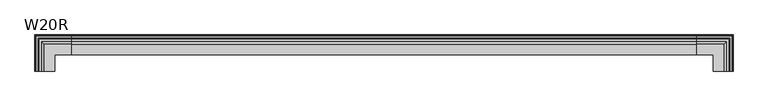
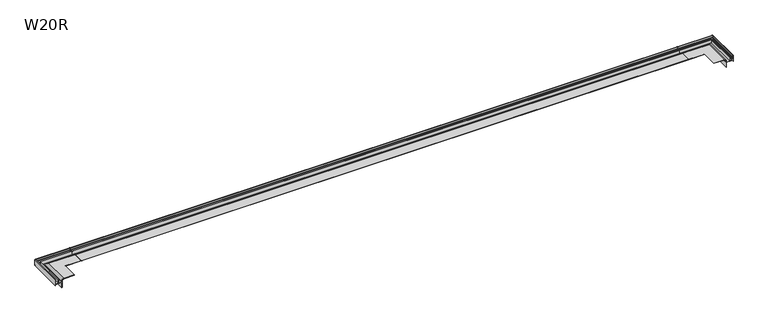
"""IFC4 building model written with IfcOpenShell, lengths in millimetres: proxy geometry, W20R Profil okapowy prosty : W20R."""

from ifc_helpers import new_model, si_unit, point, frame, frame_2d, origin, place, context, project, spatial, polyline, circle_curve, ellipse_curve, trimmed, segment, composite_curve, outline, extrude, source, transform, mapped, element, save
from ifc_brep_helpers import plane_surface, cylinder_surface, revolved_surface, advanced_brep


def w20r_ccec4204(model_context):
    return source(origin(), model_context, "Body", "SolidModel", [
        advanced_brep(
        [(4800.0, 1.3, -2.7115431), (4800.0, 1.3, -7.4), (4800.0, 0.0, -7.4), (4800.0, 0.0, -2.4993104), (4800.0, -1.7, -2.4), (4800.0, -80.0, -2.4), (4800.0, -80.0, 0.0), (4800.0, -1.7, 0.0), (4800.0, 15.3, -17.0), (4800.0, 15.3, -25.0), (4800.0, 38.8, -25.0), (4800.0, 38.8, 1.4), (4800.0, 40.3, 1.4), (4800.0, 40.3, -25.0), (4800.0, 63.8, -25.0), (4800.0, 63.8, -21.0), (4800.0, 60.6, -21.0), (4800.0, 60.6, -19.5), (4800.0, 63.8, -19.5), (4800.0, 63.8, -3.07), (4800.0, 60.6, -3.07), (4800.0, 60.6, -1.57), (4800.0, 63.8, -1.57), (4800.0, 63.8, 11.7925824), (4800.0, 63.0, 12.5925824), (4800.0, 63.0, 14.0925824), (4800.0, 65.3, 11.7925824), (4800.0, 65.3, -34.6035534), (4800.0, 63.8, -33.1035534), (4800.0, 63.8, -27.4), (4800.0, 14.6, -27.4), (4800.0, 14.6, -67.5585923), (4800.0, 12.9, -66.5086509), (4800.0, 12.9, -17.0), (5001.3, -200.0, -2.7115431), (5012.9, -200.0, -17.0), (5012.9, -200.0, -66.5086509), (5014.6, -200.0, -67.5585923), (5014.6, -200.0, -27.4), (5063.8, -200.0, -27.4), (5063.8, -200.0, -33.1035534), (5065.3, -200.0, -34.6035534), (5065.3, -200.0, 11.7925824), (5063.0, -200.0, 14.0925824), (5063.0, -200.0, 12.5925824), (5063.8, -200.0, 11.7925824), (5063.8, -200.0, -1.57), (5060.6, -200.0, -1.57), (5060.6, -200.0, -3.07), (5063.8, -200.0, -3.07), (5063.8, -200.0, -19.5), (5060.6, -200.0, -19.5), (5060.6, -200.0, -21.0), (5063.8, -200.0, -21.0), (5063.8, -200.0, -25.0), (5040.3, -200.0, -25.0), (5040.3, -200.0, 1.4), (5038.8, -200.0, 1.4), (5038.8, -200.0, -25.0), (5015.3, -200.0, -25.0), (5015.3, -200.0, -17.0), (4998.3, -200.0, 0.0), (4920.0, -200.0, 0.0), (4920.0, -200.0, -2.4), (4998.3, -200.0, -2.4), (5000.0, -200.0, -2.4993104), (5000.0, -200.0, -7.4), (5001.3, -200.0, -7.4), (5001.3, 1.3, -2.7115431), (5001.3, 1.3, -7.4), (5000.0, 0.0, -7.4), (5000.0, 0.0, -2.4993104), (4998.3, -1.7, -2.4), (4920.0, -80.0, -2.4), (4920.0, -80.0, 0.0), (4998.3, -1.7, 0.0), (5015.3, 15.3, -17.0), (5015.3, 15.3, -25.0), (5038.8, 38.8, -25.0), (5038.8, 38.8, 1.4), (5040.3, 40.3, 1.4), (5040.3, 40.3, -25.0), (5063.8, 63.8, -25.0), (5063.8, 63.8, -21.0), (5060.6, 60.6, -21.0), (5060.6, 60.6, -19.5), (5063.8, 63.8, -19.5), (5063.8, 63.8, -3.07), (5060.6, 60.6, -3.07), (5060.6, 60.6, -1.57), (5063.8, 63.8, -1.57), (5063.8, 63.8, 11.7925824), (5063.0, 63.0, 12.5925824), (5063.0, 63.0, 14.0925824), (5065.3, 65.3, 11.7925824), (5065.3, 65.3, -34.6035534), (5063.8, 63.8, -33.1035534), (5063.8, 63.8, -27.4), (5014.6, 14.6, -27.4), (5014.6, 14.6, -67.5585923), (5012.9, 12.9, -66.5086509), (5012.9, 12.9, -17.0)],
        [
            (0, 1),
            (1, 2),
            (2, 3),
            (3, 4, circle_curve(frame((4800.0, -1.7, -17.0), z_axis=(1.0, 0.0, 0.0), x_axis=(0.0, 0.9998476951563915, 0.017452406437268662)), 14.6)),
            (4, 5),
            (5, 6),
            (6, 7),
            (7, 8, circle_curve(frame((4800.0, -1.7, -17.0), z_axis=(-1.0, 0.0, 0.0), x_axis=(0.0, 0.9998476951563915, 0.017452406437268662)), 17.0)),
            (8, 9),
            (9, 10),
            (10, 11),
            (11, 12),
            (12, 13),
            (13, 14),
            (14, 15),
            (15, 16),
            (16, 17),
            (17, 18),
            (18, 19),
            (19, 20),
            (20, 21),
            (21, 22),
            (22, 23),
            (23, 24, circle_curve(frame((4800.0, 63.0, 11.7925824), z_axis=(1.0, 0.0, 0.0), x_axis=(0.0, 0.9998476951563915, 0.017452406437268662)), 0.8)),
            (24, 25),
            (25, 26, circle_curve(frame((4800.0, 63.0, 11.7925824), z_axis=(-1.0, 0.0, 0.0), x_axis=(0.0, 0.9998476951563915, 0.017452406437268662)), 2.3)),
            (26, 27),
            (27, 28),
            (28, 29),
            (29, 30),
            (30, 31),
            (31, 32),
            (32, 33),
            (33, 0, circle_curve(frame((4800.0, -1.7, -17.0), z_axis=(1.0, 0.0, 0.0), x_axis=(0.0, 0.9998476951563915, 0.017452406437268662)), 14.6)),
            (34, 35, circle_curve(frame((4998.3, -200.0, -17.0), z_axis=(0.0, 1.0, 0.0), x_axis=(0.9998476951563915, 0.0, 0.017452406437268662)), 14.6)),
            (35, 36),
            (36, 37),
            (37, 38),
            (38, 39),
            (39, 40),
            (40, 41),
            (41, 42),
            (42, 43, circle_curve(frame((5063.0, -200.0, 11.7925824), z_axis=(0.0, -1.0, 0.0), x_axis=(0.9998476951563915, 0.0, 0.017452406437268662)), 2.3)),
            (43, 44),
            (44, 45, circle_curve(frame((5063.0, -200.0, 11.7925824), z_axis=(0.0, 1.0, 0.0), x_axis=(0.9998476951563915, 0.0, 0.017452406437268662)), 0.8)),
            (45, 46),
            (46, 47),
            (47, 48),
            (48, 49),
            (49, 50),
            (50, 51),
            (51, 52),
            (52, 53),
            (53, 54),
            (54, 55),
            (55, 56),
            (56, 57),
            (57, 58),
            (58, 59),
            (59, 60),
            (60, 61, circle_curve(frame((4998.3, -200.0, -17.0), z_axis=(0.0, -1.0, 0.0), x_axis=(0.9998476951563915, 0.0, 0.017452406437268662)), 17.0)),
            (61, 62),
            (62, 63),
            (63, 64),
            (64, 65, circle_curve(frame((4998.3, -200.0, -17.0), z_axis=(0.0, 1.0, 0.0), x_axis=(0.9998476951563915, 0.0, 0.017452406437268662)), 14.6)),
            (65, 66),
            (66, 67),
            (67, 34),
            (0, 68),
            (68, 69),
            (69, 1),
            (69, 67),
            (66, 70),
            (70, 2),
            (70, 71),
            (71, 3),
            (71, 72, ellipse_curve(frame((4998.3, -1.7, -17.0), z_axis=(0.7071067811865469, -0.707106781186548, 0.0), x_axis=(0.7071067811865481, 0.7071067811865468, 0.0)), 20.647518, 14.6)),
            (72, 4),
            (72, 64),
            (63, 73),
            (73, 5),
            (73, 74),
            (74, 6),
            (74, 62),
            (61, 75),
            (75, 7),
            (75, 76, ellipse_curve(frame((4998.3, -1.7, -17.0), z_axis=(-0.7071067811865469, 0.707106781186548, 0.0), x_axis=(-0.7071067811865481, -0.7071067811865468, 0.0)), 24.0416306, 17.0)),
            (76, 8),
            (76, 77),
            (77, 9),
            (77, 59),
            (58, 78),
            (78, 10),
            (78, 79),
            (79, 11),
            (79, 57),
            (56, 80),
            (80, 12),
            (80, 81),
            (81, 13),
            (81, 55),
            (54, 82),
            (82, 14),
            (82, 83),
            (83, 15),
            (83, 53),
            (52, 84),
            (84, 16),
            (84, 85),
            (85, 17),
            (85, 51),
            (50, 86),
            (86, 18),
            (86, 87),
            (87, 19),
            (87, 49),
            (48, 88),
            (88, 20),
            (88, 89),
            (89, 21),
            (89, 47),
            (46, 90),
            (90, 22),
            (90, 91),
            (91, 23),
            (91, 92, ellipse_curve(frame((5063.0, 63.0, 11.7925824), z_axis=(0.7071067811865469, -0.707106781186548, 0.0), x_axis=(0.7071067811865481, 0.7071067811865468, 0.0)), 1.1313708, 0.8)),
            (92, 24),
            (92, 93),
            (93, 25),
            (93, 94, ellipse_curve(frame((5063.0, 63.0, 11.7925824), z_axis=(-0.7071067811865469, 0.707106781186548, 0.0), x_axis=(-0.7071067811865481, -0.7071067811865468, 0.0)), 3.2526912, 2.3)),
            (94, 26),
            (94, 95),
            (95, 27),
            (95, 96),
            (96, 28),
            (96, 97),
            (97, 29),
            (97, 39),
            (38, 98),
            (98, 30),
            (98, 99),
            (99, 31),
            (99, 100),
            (100, 32),
            (100, 101),
            (101, 33),
            (101, 68, ellipse_curve(frame((4998.3, -1.7, -17.0), z_axis=(0.7071067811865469, -0.707106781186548, 0.0), x_axis=(0.7071067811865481, 0.7071067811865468, 0.0)), 20.647518, 14.6)),
            (68, 34),
            (65, 71),
            (60, 76),
            (45, 91),
            (44, 92),
            (43, 93),
            (42, 94),
            (41, 95),
            (40, 96),
            (37, 99),
            (36, 100),
            (35, 101),
        ],
        [
            plane_surface(frame((4800.0, 0.0, 0.0), z_axis=(-1.0, 0.0, 0.0), x_axis=(0.0, 0.0, 1.0))),
            plane_surface(frame((5000.0, -200.0, 0.0), z_axis=(0.0, -1.0, 0.0), x_axis=(0.0, 0.0, 1.0))),
            plane_surface(frame((4800.0, 1.3, -2.7115431), z_axis=(0.0, 1.0, 0.0), x_axis=(1.0, 0.0, 0.0))),
            plane_surface(frame((4800.0, 1.3, -7.4), z_axis=(0.0, 0.0, -1.0), x_axis=(1.0, 0.0, 0.0))),
            plane_surface(frame((4800.0, 0.0, -7.4), z_axis=(0.0, -1.0, 0.0), x_axis=(1.0, 0.0, 0.0))),
            revolved_surface(polyline([(5012.899999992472, 12.897776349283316, -16.74519486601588), (4800.0, 12.897776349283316, -16.74519486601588)]), (4800.0, -1.7, -17.0), (1.0, 0.0, 0.0)),
            plane_surface(frame((4800.0, -1.7, -2.4), z_axis=(0.0, 0.0, -1.0), x_axis=(1.0, 0.0, 0.0))),
            plane_surface(frame((4800.0, -80.0, -2.4), z_axis=(0.0, -1.0, 0.0), x_axis=(1.0, 0.0, 0.0))),
            plane_surface(frame((4800.0, -80.0, 0.0), z_axis=(0.0, 0.0, 1.0), x_axis=(1.0, 0.0, 0.0))),
            cylinder_surface(frame((4800.0, -1.7, -17.0), z_axis=(-1.0, 0.0, 0.0), x_axis=(0.0, 0.9998476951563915, 0.017452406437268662)), 17.0),
            plane_surface(frame((4800.0, 15.3, -17.0), z_axis=(0.0, 1.0, 0.0), x_axis=(1.0, 0.0, 0.0))),
            plane_surface(frame((4800.0, 15.3, -25.0), z_axis=(0.0, 0.0, 1.0), x_axis=(1.0, 0.0, 0.0))),
            plane_surface(frame((4800.0, 38.8, -25.0), z_axis=(0.0, -1.0, 0.0), x_axis=(1.0, 0.0, 0.0))),
            plane_surface(frame((4800.0, 38.8, 1.4), z_axis=(0.0, 0.0, 1.0), x_axis=(1.0, 0.0, 0.0))),
            plane_surface(frame((4800.0, 40.3, 1.4), z_axis=(0.0, 1.0, 0.0), x_axis=(1.0, 0.0, 0.0))),
            plane_surface(frame((4800.0, 40.3, -25.0), z_axis=(0.0, 0.0, 1.0), x_axis=(1.0, 0.0, 0.0))),
            plane_surface(frame((4800.0, 63.8, -25.0), z_axis=(0.0, -1.0, 0.0), x_axis=(1.0, 0.0, 0.0))),
            plane_surface(frame((4800.0, 63.8, -21.0), z_axis=(0.0, 0.0, -1.0), x_axis=(1.0, 0.0, 0.0))),
            plane_surface(frame((4800.0, 60.6, -21.0), z_axis=(0.0, -1.0, 0.0), x_axis=(1.0, 0.0, 0.0))),
            plane_surface(frame((4800.0, 60.6, -19.5), z_axis=(0.0, 0.0, 1.0), x_axis=(1.0, 0.0, 0.0))),
            plane_surface(frame((4800.0, 63.8, -19.5), z_axis=(0.0, -1.0, 0.0), x_axis=(1.0, 0.0, 0.0))),
            plane_surface(frame((4800.0, 63.8, -3.07), z_axis=(0.0, 0.0, -1.0), x_axis=(1.0, 0.0, 0.0))),
            plane_surface(frame((4800.0, 60.6, -3.07), z_axis=(0.0, -1.0, 0.0), x_axis=(1.0, 0.0, 0.0))),
            plane_surface(frame((4800.0, 60.6, -1.57), z_axis=(0.0, 0.0, 1.0), x_axis=(1.0, 0.0, 0.0))),
            plane_surface(frame((4800.0, 63.8, -1.57), z_axis=(0.0, -1.0, 0.0), x_axis=(1.0, 0.0, 0.0))),
            revolved_surface(polyline([(5063.8, 63.79987815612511, 11.806544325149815), (4800.0, 63.79987815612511, 11.806544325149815)]), (4800.0, 63.0, 11.7925824), (1.0, 0.0, 0.0)),
            plane_surface(frame((4800.0, 63.0, 12.5925824), z_axis=(0.0, -1.0, 0.0), x_axis=(1.0, 0.0, 0.0))),
            cylinder_surface(frame((4800.0, 63.0, 11.7925824), z_axis=(-1.0, 0.0, 0.0), x_axis=(0.0, 0.9998476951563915, 0.017452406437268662)), 2.3),
            plane_surface(frame((4800.0, 65.3, 11.7925824), z_axis=(0.0, 1.0, 0.0), x_axis=(1.0, 0.0, 0.0))),
            plane_surface(frame((4800.0, 65.3, -34.6035534), z_axis=(0.0, -0.7071067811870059, -0.7071067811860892), x_axis=(1.0, 0.0, 0.0))),
            plane_surface(frame((4800.0, 63.8, -33.1035534), z_axis=(0.0, -1.0, 0.0), x_axis=(1.0, 0.0, 0.0))),
            plane_surface(frame((4800.0, 63.8, -27.4), z_axis=(0.0, 0.0, -1.0), x_axis=(1.0, 0.0, 0.0))),
            plane_surface(frame((4800.0, 14.6, -27.4), z_axis=(0.0, 1.0, 0.0), x_axis=(1.0, 0.0, 0.0))),
            plane_surface(frame((4800.0, 14.6, -67.5585923), z_axis=(0.0, -0.5254716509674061, -0.8508111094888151), x_axis=(1.0, 0.0, 0.0))),
            plane_surface(frame((4800.0, 12.9, -66.5086509), z_axis=(0.0, -1.0, 0.0), x_axis=(1.0, 0.0, 0.0))),
            revolved_surface(polyline([(5012.9, 12.897776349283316, -16.74519486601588), (4800.0, 12.897776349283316, -16.74519486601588)]), (4800.0, -1.7, -17.0), (1.0, 0.0, 0.0)),
            plane_surface(frame((5001.3, 1.3, -2.7115431), z_axis=(1.0, 0.0, 0.0), x_axis=(0.0, -1.0, 0.0))),
            plane_surface(frame((5000.0, 0.0, -7.4), z_axis=(-1.0, 0.0, 0.0), x_axis=(0.0, -1.0, 0.0))),
            revolved_surface(polyline([(5012.897776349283, -200.0, -16.74519486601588), (5012.897776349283, 12.899999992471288, -16.74519486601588)]), (4998.3, 0.0, -17.0), (0.0, -1.0, 0.0)),
            plane_surface(frame((4920.0, -80.0, -2.4), z_axis=(-1.0, 0.0, 0.0), x_axis=(0.0, -1.0, 0.0))),
            cylinder_surface(frame((4998.3, 0.0, -17.0), z_axis=(0.0, 1.0, 0.0), x_axis=(0.9998476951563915, 0.0, 0.017452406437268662)), 17.0),
            plane_surface(frame((5015.3, 15.3, -17.0), z_axis=(1.0, 0.0, 0.0), x_axis=(0.0, -1.0, 0.0))),
            plane_surface(frame((5038.8, 38.8, -25.0), z_axis=(-1.0, 0.0, 0.0), x_axis=(0.0, -1.0, 0.0))),
            plane_surface(frame((5040.3, 40.3, 1.4), z_axis=(1.0, 0.0, 0.0), x_axis=(0.0, -1.0, 0.0))),
            plane_surface(frame((5063.8, 63.8, -25.0), z_axis=(-1.0, 0.0, 0.0), x_axis=(0.0, -1.0, 0.0))),
            plane_surface(frame((5060.6, 60.6, -21.0), z_axis=(-1.0, 0.0, 0.0), x_axis=(0.0, -1.0, 0.0))),
            plane_surface(frame((5063.8, 63.8, -19.5), z_axis=(-1.0, 0.0, 0.0), x_axis=(0.0, -1.0, 0.0))),
            plane_surface(frame((5060.6, 60.6, -3.07), z_axis=(-1.0, 0.0, 0.0), x_axis=(0.0, -1.0, 0.0))),
            plane_surface(frame((5063.8, 63.8, -1.57), z_axis=(-1.0, 0.0, 0.0), x_axis=(0.0, -1.0, 0.0))),
            revolved_surface(polyline([(5063.7998781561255, -200.0, 11.806544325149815), (5063.7998781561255, 63.8, 11.806544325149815)]), (5063.0, 0.0, 11.7925824), (0.0, -1.0, 0.0)),
            plane_surface(frame((5063.0, 63.0, 12.5925824), z_axis=(-1.0, 0.0, 0.0), x_axis=(0.0, -1.0, 0.0))),
            cylinder_surface(frame((5063.0, 0.0, 11.7925824), z_axis=(0.0, 1.0, 0.0), x_axis=(0.9998476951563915, 0.0, 0.017452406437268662)), 2.3),
            plane_surface(frame((5065.3, 65.3, 11.7925824), z_axis=(1.0, 0.0, 0.0), x_axis=(0.0, -1.0, 0.0))),
            plane_surface(frame((5065.3, 65.3, -34.6035534), z_axis=(-0.7071067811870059, 0.0, -0.7071067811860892), x_axis=(0.0, -1.0, 0.0))),
            plane_surface(frame((5063.8, 63.8, -33.1035534), z_axis=(-1.0, 0.0, 0.0), x_axis=(0.0, -1.0, 0.0))),
            plane_surface(frame((5014.6, 14.6, -27.4), z_axis=(1.0, 0.0, 0.0), x_axis=(0.0, -1.0, 0.0))),
            plane_surface(frame((5014.6, 14.6, -67.5585923), z_axis=(-0.5254716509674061, 0.0, -0.8508111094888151), x_axis=(0.0, -1.0, 0.0))),
            plane_surface(frame((5012.9, 12.9, -66.5086509), z_axis=(-1.0, 0.0, 0.0), x_axis=(0.0, -1.0, 0.0))),
            revolved_surface(polyline([(5012.897776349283, -200.0, -16.74519486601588), (5012.897776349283, 12.9, -16.74519486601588)]), (4998.3, 0.0, -17.0), (0.0, -1.0, 0.0)),
        ],
        [
            (0, [[1, 2, 3, 4, 5, 6, 7, 8, 9, 10, 11, 12, 13, 14, 15, 16, 17, 18, 19, 20, 21, 22, 23, 24, 25, 26, 27, 28, 29, 30, 31, 32, 33, 34]]),
            (1, [[35, 36, 37, 38, 39, 40, 41, 42, 43, 44, 45, 46, 47, 48, 49, 50, 51, 52, 53, 54, 55, 56, 57, 58, 59, 60, 61, 62, 63, 64, 65, 66, 67, 68]]),
            (2, [[-1, 69, 70, 71]]),
            (3, [[-2, -71, 72, -67, 73, 74]]),
            (4, [[-3, -74, 75, 76]]),
            (5, [[-4, -76, 77, 78]]),
            (6, [[-5, -78, 79, -64, 80, 81]]),
            (7, [[-6, -81, 82, 83]]),
            (8, [[-7, -83, 84, -62, 85, 86]]),
            (9, [[-8, -86, 87, 88]]),
            (10, [[-9, -88, 89, 90]]),
            (11, [[-10, -90, 91, -59, 92, 93]]),
            (12, [[-11, -93, 94, 95]]),
            (13, [[-12, -95, 96, -57, 97, 98]]),
            (14, [[-13, -98, 99, 100]]),
            (15, [[-14, -100, 101, -55, 102, 103]]),
            (16, [[-15, -103, 104, 105]]),
            (17, [[-16, -105, 106, -53, 107, 108]]),
            (18, [[-17, -108, 109, 110]]),
            (19, [[-18, -110, 111, -51, 112, 113]]),
            (20, [[-19, -113, 114, 115]]),
            (21, [[-20, -115, 116, -49, 117, 118]]),
            (22, [[-21, -118, 119, 120]]),
            (23, [[-22, -120, 121, -47, 122, 123]]),
            (24, [[-23, -123, 124, 125]]),
            (25, [[-24, -125, 126, 127]]),
            (26, [[-25, -127, 128, 129]]),
            (27, [[-26, -129, 130, 131]]),
            (28, [[-27, -131, 132, 133]]),
            (29, [[-28, -133, 134, 135]]),
            (30, [[-29, -135, 136, 137]]),
            (31, [[-30, -137, 138, -39, 139, 140]]),
            (32, [[-31, -140, 141, 142]]),
            (33, [[-32, -142, 143, 144]]),
            (34, [[-33, -144, 145, 146]]),
            (35, [[-34, -146, 147, -69]]),
            (36, [[-70, 148, -68, -72]]),
            (37, [[-75, -73, -66, 149]]),
            (38, [[-77, -149, -65, -79]]),
            (39, [[-82, -80, -63, -84]]),
            (40, [[-87, -85, -61, 150]]),
            (41, [[-89, -150, -60, -91]]),
            (42, [[-94, -92, -58, -96]]),
            (43, [[-99, -97, -56, -101]]),
            (44, [[-104, -102, -54, -106]]),
            (45, [[-109, -107, -52, -111]]),
            (46, [[-114, -112, -50, -116]]),
            (47, [[-119, -117, -48, -121]]),
            (48, [[-124, -122, -46, 151]]),
            (49, [[-126, -151, -45, 152]]),
            (50, [[-128, -152, -44, 153]]),
            (51, [[-130, -153, -43, 154]]),
            (52, [[-132, -154, -42, 155]]),
            (53, [[-134, -155, -41, 156]]),
            (54, [[-136, -156, -40, -138]]),
            (55, [[-141, -139, -38, 157]]),
            (56, [[-143, -157, -37, 158]]),
            (57, [[-145, -158, -36, 159]]),
            (58, [[-147, -159, -35, -148]]),
        ],
    ),
        advanced_brep(
        [(200.0, 1.3, -2.7115431), (200.0, 12.9, -17.0), (200.0, 12.9, -66.5086509), (200.0, 14.6, -67.5585923), (200.0, 14.6, -27.4), (200.0, 63.8, -27.4), (200.0, 63.8, -33.1035534), (200.0, 65.3, -34.6035534), (200.0, 65.3, 11.7925824), (200.0, 63.0, 14.0925824), (200.0, 63.0, 12.5925824), (200.0, 63.8, 11.7925824), (200.0, 63.8, -1.57), (200.0, 60.6, -1.57), (200.0, 60.6, -3.07), (200.0, 63.8, -3.07), (200.0, 63.8, -19.5), (200.0, 60.6, -19.5), (200.0, 60.6, -21.0), (200.0, 63.8, -21.0), (200.0, 63.8, -25.0), (200.0, 40.3, -25.0), (200.0, 40.3, 1.4), (200.0, 38.8, 1.4), (200.0, 38.8, -25.0), (200.0, 15.3, -25.0), (200.0, 15.3, -17.0), (200.0, -1.7, 0.0), (200.0, -80.0, 0.0), (200.0, -80.0, -2.4), (200.0, -1.7, -2.4), (200.0, 0.0, -2.4993104), (200.0, 0.0, -7.4), (200.0, 1.3, -7.4), (-1.3, -200.0, -2.7115431), (-1.3, -200.0, -7.4), (0.0, -200.0, -7.4), (0.0, -200.0, -2.4993104), (1.7, -200.0, -2.4), (80.0, -200.0, -2.4), (80.0, -200.0, 0.0), (1.7, -200.0, 0.0), (-15.3, -200.0, -17.0), (-15.3, -200.0, -25.0), (-38.8, -200.0, -25.0), (-38.8, -200.0, 1.4), (-40.3, -200.0, 1.4), (-40.3, -200.0, -25.0), (-63.8, -200.0, -25.0), (-63.8, -200.0, -21.0), (-60.6, -200.0, -21.0), (-60.6, -200.0, -19.5), (-63.8, -200.0, -19.5), (-63.8, -200.0, -3.07), (-60.6, -200.0, -3.07), (-60.6, -200.0, -1.57), (-63.8, -200.0, -1.57), (-63.8, -200.0, 11.7925824), (-63.0, -200.0, 12.5925824), (-63.0, -200.0, 14.0925824), (-65.3, -200.0, 11.7925824), (-65.3, -200.0, -34.6035534), (-63.8, -200.0, -33.1035534), (-63.8, -200.0, -27.4), (-14.6, -200.0, -27.4), (-14.6, -200.0, -67.5585923), (-12.9, -200.0, -66.5086509), (-12.9, -200.0, -17.0), (-1.3, 1.3, -7.4), (-1.3, 1.3, -2.7115431), (0.0, 0.0, -7.4), (0.0, 0.0, -2.4993104), (1.7, -1.7, -2.4), (80.0, -80.0, -2.4), (80.0, -80.0, 0.0), (1.7, -1.7, 0.0), (-15.3, 15.3, -17.0), (-15.3, 15.3, -25.0), (-38.8, 38.8, -25.0), (-38.8, 38.8, 1.4), (-40.3, 40.3, 1.4), (-40.3, 40.3, -25.0), (-63.8, 63.8, -25.0), (-63.8, 63.8, -21.0), (-60.6, 60.6, -21.0), (-60.6, 60.6, -19.5), (-63.8, 63.8, -19.5), (-63.8, 63.8, -3.07), (-60.6, 60.6, -3.07), (-60.6, 60.6, -1.57), (-63.8, 63.8, -1.57), (-63.8, 63.8, 11.7925824), (-63.0, 63.0, 12.5925824), (-63.0, 63.0, 14.0925824), (-65.3, 65.3, 11.7925824), (-65.3, 65.3, -34.6035534), (-63.8, 63.8, -33.1035534), (-63.8, 63.8, -27.4), (-14.6, 14.6, -27.4), (-14.6, 14.6, -67.5585923), (-12.9, 12.9, -66.5086509), (-12.9, 12.9, -17.0)],
        [
            (0, 1, circle_curve(frame((200.0, -1.7, -17.0), z_axis=(-1.0, 0.0, 0.0), x_axis=(0.0, 0.9998476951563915, 0.017452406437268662)), 14.6)),
            (1, 2),
            (2, 3),
            (3, 4),
            (4, 5),
            (5, 6),
            (6, 7),
            (7, 8),
            (8, 9, circle_curve(frame((200.0, 63.0, 11.7925824), z_axis=(1.0, 0.0, 0.0), x_axis=(0.0, 0.9998476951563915, 0.017452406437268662)), 2.3)),
            (9, 10),
            (10, 11, circle_curve(frame((200.0, 63.0, 11.7925824), z_axis=(-1.0, 0.0, 0.0), x_axis=(0.0, 0.9998476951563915, 0.017452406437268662)), 0.8)),
            (11, 12),
            (12, 13),
            (13, 14),
            (14, 15),
            (15, 16),
            (16, 17),
            (17, 18),
            (18, 19),
            (19, 20),
            (20, 21),
            (21, 22),
            (22, 23),
            (23, 24),
            (24, 25),
            (25, 26),
            (26, 27, circle_curve(frame((200.0, -1.7, -17.0), z_axis=(1.0, 0.0, 0.0), x_axis=(0.0, 0.9998476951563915, 0.017452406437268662)), 17.0)),
            (27, 28),
            (28, 29),
            (29, 30),
            (30, 31, circle_curve(frame((200.0, -1.7, -17.0), z_axis=(-1.0, 0.0, 0.0), x_axis=(0.0, 0.9998476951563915, 0.017452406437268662)), 14.6)),
            (31, 32),
            (32, 33),
            (33, 0),
            (34, 35),
            (35, 36),
            (36, 37),
            (37, 38, circle_curve(frame((1.7, -200.0, -17.0), z_axis=(0.0, 1.0, 0.0), x_axis=(-0.9998476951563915, 0.0, 0.017452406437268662)), 14.6)),
            (38, 39),
            (39, 40),
            (40, 41),
            (41, 42, circle_curve(frame((1.7, -200.0, -17.0), z_axis=(0.0, -1.0, 0.0), x_axis=(-0.9998476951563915, 0.0, 0.017452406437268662)), 17.0)),
            (42, 43),
            (43, 44),
            (44, 45),
            (45, 46),
            (46, 47),
            (47, 48),
            (48, 49),
            (49, 50),
            (50, 51),
            (51, 52),
            (52, 53),
            (53, 54),
            (54, 55),
            (55, 56),
            (56, 57),
            (57, 58, circle_curve(frame((-63.0, -200.0, 11.7925824), z_axis=(0.0, 1.0, 0.0), x_axis=(-0.9998476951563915, 0.0, 0.017452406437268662)), 0.8)),
            (58, 59),
            (59, 60, circle_curve(frame((-63.0, -200.0, 11.7925824), z_axis=(0.0, -1.0, 0.0), x_axis=(-0.9998476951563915, 0.0, 0.017452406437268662)), 2.3)),
            (60, 61),
            (61, 62),
            (62, 63),
            (63, 64),
            (64, 65),
            (65, 66),
            (66, 67),
            (67, 34, circle_curve(frame((1.7, -200.0, -17.0), z_axis=(0.0, 1.0, 0.0), x_axis=(-0.9998476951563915, 0.0, 0.017452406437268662)), 14.6)),
            (33, 68),
            (68, 69),
            (69, 0),
            (32, 70),
            (70, 36),
            (35, 68),
            (31, 71),
            (71, 70),
            (30, 72),
            (72, 71, ellipse_curve(frame((1.7, -1.7, -17.0), z_axis=(-0.7071067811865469, -0.707106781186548, 0.0), x_axis=(-0.7071067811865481, 0.7071067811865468, 0.0)), 20.647518, 14.6)),
            (29, 73),
            (73, 39),
            (38, 72),
            (28, 74),
            (74, 73),
            (27, 75),
            (75, 41),
            (40, 74),
            (26, 76),
            (76, 75, ellipse_curve(frame((1.7, -1.7, -17.0), z_axis=(0.7071067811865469, 0.707106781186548, 0.0), x_axis=(0.7071067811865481, -0.7071067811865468, 0.0)), 24.0416306, 17.0)),
            (25, 77),
            (77, 76),
            (24, 78),
            (78, 44),
            (43, 77),
            (23, 79),
            (79, 78),
            (22, 80),
            (80, 46),
            (45, 79),
            (21, 81),
            (81, 80),
            (20, 82),
            (82, 48),
            (47, 81),
            (19, 83),
            (83, 82),
            (18, 84),
            (84, 50),
            (49, 83),
            (17, 85),
            (85, 84),
            (16, 86),
            (86, 52),
            (51, 85),
            (15, 87),
            (87, 86),
            (14, 88),
            (88, 54),
            (53, 87),
            (13, 89),
            (89, 88),
            (12, 90),
            (90, 56),
            (55, 89),
            (11, 91),
            (91, 90),
            (10, 92),
            (92, 91, ellipse_curve(frame((-63.0, 63.0, 11.7925824), z_axis=(-0.7071067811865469, -0.707106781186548, 0.0), x_axis=(-0.7071067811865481, 0.7071067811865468, 0.0)), 1.1313708, 0.8)),
            (9, 93),
            (93, 92),
            (8, 94),
            (94, 93, ellipse_curve(frame((-63.0, 63.0, 11.7925824), z_axis=(0.7071067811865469, 0.707106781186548, 0.0), x_axis=(0.7071067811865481, -0.7071067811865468, 0.0)), 3.2526912, 2.3)),
            (7, 95),
            (95, 94),
            (6, 96),
            (96, 95),
            (5, 97),
            (97, 96),
            (4, 98),
            (98, 64),
            (63, 97),
            (3, 99),
            (99, 98),
            (2, 100),
            (100, 99),
            (1, 101),
            (101, 100),
            (69, 101, ellipse_curve(frame((1.7, -1.7, -17.0), z_axis=(-0.7071067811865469, -0.707106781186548, 0.0), x_axis=(-0.7071067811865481, 0.7071067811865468, 0.0)), 20.647518, 14.6)),
            (34, 69),
            (71, 37),
            (76, 42),
            (91, 57),
            (92, 58),
            (93, 59),
            (94, 60),
            (95, 61),
            (96, 62),
            (99, 65),
            (100, 66),
            (101, 67),
        ],
        [
            plane_surface(frame((200.0, 0.0, 0.0), z_axis=(1.0, 0.0, 0.0), x_axis=(0.0, 0.0, 1.0))),
            plane_surface(frame((0.0, -200.0, 0.0), z_axis=(0.0, -1.0, 0.0), x_axis=(0.0, 0.0, 1.0))),
            plane_surface(frame((200.0, 1.3, -2.7115431), z_axis=(0.0, 1.0, 0.0), x_axis=(-1.0, 0.0, 0.0))),
            plane_surface(frame((200.0, 1.3, -7.4), z_axis=(0.0, 0.0, -1.0), x_axis=(-1.0, 0.0, 0.0))),
            plane_surface(frame((200.0, 0.0, -7.4), z_axis=(0.0, -1.0, 0.0), x_axis=(-1.0, 0.0, 0.0))),
            revolved_surface(polyline([(-12.899999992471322, 12.897776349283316, -16.74519486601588), (200.0, 12.897776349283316, -16.74519486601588)]), (200.0, -1.7, -17.0), (-1.0, 0.0, 0.0)),
            plane_surface(frame((200.0, -1.7, -2.4), z_axis=(0.0, 0.0, -1.0), x_axis=(-1.0, 0.0, 0.0))),
            plane_surface(frame((200.0, -80.0, -2.4), z_axis=(0.0, -1.0, 0.0), x_axis=(-1.0, 0.0, 0.0))),
            plane_surface(frame((200.0, -80.0, 0.0), z_axis=(0.0, 0.0, 1.0), x_axis=(-1.0, 0.0, 0.0))),
            cylinder_surface(frame((200.0, -1.7, -17.0), z_axis=(1.0, 0.0, 0.0), x_axis=(0.0, 0.9998476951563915, 0.017452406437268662)), 17.0),
            plane_surface(frame((200.0, 15.3, -17.0), z_axis=(0.0, 1.0, 0.0), x_axis=(-1.0, 0.0, 0.0))),
            plane_surface(frame((200.0, 15.3, -25.0), z_axis=(0.0, 0.0, 1.0), x_axis=(-1.0, 0.0, 0.0))),
            plane_surface(frame((200.0, 38.8, -25.0), z_axis=(0.0, -1.0, 0.0), x_axis=(-1.0, 0.0, 0.0))),
            plane_surface(frame((200.0, 38.8, 1.4), z_axis=(0.0, 0.0, 1.0), x_axis=(-1.0, 0.0, 0.0))),
            plane_surface(frame((200.0, 40.3, 1.4), z_axis=(0.0, 1.0, 0.0), x_axis=(-1.0, 0.0, 0.0))),
            plane_surface(frame((200.0, 40.3, -25.0), z_axis=(0.0, 0.0, 1.0), x_axis=(-1.0, 0.0, 0.0))),
            plane_surface(frame((200.0, 63.8, -25.0), z_axis=(0.0, -1.0, 0.0), x_axis=(-1.0, 0.0, 0.0))),
            plane_surface(frame((200.0, 63.8, -21.0), z_axis=(0.0, 0.0, -1.0), x_axis=(-1.0, 0.0, 0.0))),
            plane_surface(frame((200.0, 60.6, -21.0), z_axis=(0.0, -1.0, 0.0), x_axis=(-1.0, 0.0, 0.0))),
            plane_surface(frame((200.0, 60.6, -19.5), z_axis=(0.0, 0.0, 1.0), x_axis=(-1.0, 0.0, 0.0))),
            plane_surface(frame((200.0, 63.8, -19.5), z_axis=(0.0, -1.0, 0.0), x_axis=(-1.0, 0.0, 0.0))),
            plane_surface(frame((200.0, 63.8, -3.07), z_axis=(0.0, 0.0, -1.0), x_axis=(-1.0, 0.0, 0.0))),
            plane_surface(frame((200.0, 60.6, -3.07), z_axis=(0.0, -1.0, 0.0), x_axis=(-1.0, 0.0, 0.0))),
            plane_surface(frame((200.0, 60.6, -1.57), z_axis=(0.0, 0.0, 1.0), x_axis=(-1.0, 0.0, 0.0))),
            plane_surface(frame((200.0, 63.8, -1.57), z_axis=(0.0, -1.0, 0.0), x_axis=(-1.0, 0.0, 0.0))),
            revolved_surface(polyline([(-63.80000000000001, 63.79987815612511, 11.806544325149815), (200.0, 63.79987815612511, 11.806544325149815)]), (200.0, 63.0, 11.7925824), (-1.0, 0.0, 0.0)),
            plane_surface(frame((200.0, 63.0, 12.5925824), z_axis=(0.0, -1.0, 0.0), x_axis=(-1.0, 0.0, 0.0))),
            cylinder_surface(frame((200.0, 63.0, 11.7925824), z_axis=(1.0, 0.0, 0.0), x_axis=(0.0, 0.9998476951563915, 0.017452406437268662)), 2.3),
            plane_surface(frame((200.0, 65.3, 11.7925824), z_axis=(0.0, 1.0, 0.0), x_axis=(-1.0, 0.0, 0.0))),
            plane_surface(frame((200.0, 65.3, -34.6035534), z_axis=(0.0, -0.7071067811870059, -0.7071067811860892), x_axis=(-1.0, 0.0, 0.0))),
            plane_surface(frame((200.0, 63.8, -33.1035534), z_axis=(0.0, -1.0, 0.0), x_axis=(-1.0, 0.0, 0.0))),
            plane_surface(frame((200.0, 63.8, -27.4), z_axis=(0.0, 0.0, -1.0), x_axis=(-1.0, 0.0, 0.0))),
            plane_surface(frame((200.0, 14.6, -27.4), z_axis=(0.0, 1.0, 0.0), x_axis=(-1.0, 0.0, 0.0))),
            plane_surface(frame((200.0, 14.6, -67.5585923), z_axis=(0.0, -0.5254716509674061, -0.8508111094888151), x_axis=(-1.0, 0.0, 0.0))),
            plane_surface(frame((200.0, 12.9, -66.5086509), z_axis=(0.0, -1.0, 0.0), x_axis=(-1.0, 0.0, 0.0))),
            revolved_surface(polyline([(-12.900000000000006, 12.897776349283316, -16.74519486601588), (200.0, 12.897776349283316, -16.74519486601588)]), (200.0, -1.7, -17.0), (-1.0, 0.0, 0.0)),
            plane_surface(frame((-1.3, 1.3, -2.7115431), z_axis=(-1.0, 0.0, 0.0), x_axis=(0.0, -1.0, 0.0))),
            plane_surface(frame((0.0, 0.0, -7.4), z_axis=(1.0, 0.0, 0.0), x_axis=(0.0, -1.0, 0.0))),
            revolved_surface(polyline([(-12.897776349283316, -200.0, -16.74519486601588), (-12.897776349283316, 12.899999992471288, -16.74519486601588)]), (1.7, 0.0, -17.0), (0.0, -1.0, 0.0)),
            plane_surface(frame((80.0, -80.0, -2.4), z_axis=(1.0, 0.0, 0.0), x_axis=(0.0, -1.0, 0.0))),
            cylinder_surface(frame((1.7, 0.0, -17.0), z_axis=(0.0, 1.0, 0.0), x_axis=(-0.9998476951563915, 0.0, 0.017452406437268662)), 17.0),
            plane_surface(frame((-15.3, 15.3, -17.0), z_axis=(-1.0, 0.0, 0.0), x_axis=(0.0, -1.0, 0.0))),
            plane_surface(frame((-38.8, 38.8, -25.0), z_axis=(1.0, 0.0, 0.0), x_axis=(0.0, -1.0, 0.0))),
            plane_surface(frame((-40.3, 40.3, 1.4), z_axis=(-1.0, 0.0, 0.0), x_axis=(0.0, -1.0, 0.0))),
            plane_surface(frame((-63.8, 63.8, -25.0), z_axis=(1.0, 0.0, 0.0), x_axis=(0.0, -1.0, 0.0))),
            plane_surface(frame((-60.6, 60.6, -21.0), z_axis=(1.0, 0.0, 0.0), x_axis=(0.0, -1.0, 0.0))),
            plane_surface(frame((-63.8, 63.8, -19.5), z_axis=(1.0, 0.0, 0.0), x_axis=(0.0, -1.0, 0.0))),
            plane_surface(frame((-60.6, 60.6, -3.07), z_axis=(1.0, 0.0, 0.0), x_axis=(0.0, -1.0, 0.0))),
            plane_surface(frame((-63.8, 63.8, -1.57), z_axis=(1.0, 0.0, 0.0), x_axis=(0.0, -1.0, 0.0))),
            revolved_surface(polyline([(-63.79987815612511, -200.0, 11.806544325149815), (-63.79987815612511, 63.8, 11.806544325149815)]), (-63.0, 0.0, 11.7925824), (0.0, -1.0, 0.0)),
            plane_surface(frame((-63.0, 63.0, 12.5925824), z_axis=(1.0, 0.0, 0.0), x_axis=(0.0, -1.0, 0.0))),
            cylinder_surface(frame((-63.0, 0.0, 11.7925824), z_axis=(0.0, 1.0, 0.0), x_axis=(-0.9998476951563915, 0.0, 0.017452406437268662)), 2.3),
            plane_surface(frame((-65.3, 65.3, 11.7925824), z_axis=(-1.0, 0.0, 0.0), x_axis=(0.0, -1.0, 0.0))),
            plane_surface(frame((-65.3, 65.3, -34.6035534), z_axis=(0.7071067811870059, 0.0, -0.7071067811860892), x_axis=(0.0, -1.0, 0.0))),
            plane_surface(frame((-63.8, 63.8, -33.1035534), z_axis=(1.0, 0.0, 0.0), x_axis=(0.0, -1.0, 0.0))),
            plane_surface(frame((-14.6, 14.6, -27.4), z_axis=(-1.0, 0.0, 0.0), x_axis=(0.0, -1.0, 0.0))),
            plane_surface(frame((-14.6, 14.6, -67.5585923), z_axis=(0.5254716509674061, 0.0, -0.8508111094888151), x_axis=(0.0, -1.0, 0.0))),
            plane_surface(frame((-12.9, 12.9, -66.5086509), z_axis=(1.0, 0.0, 0.0), x_axis=(0.0, -1.0, 0.0))),
            revolved_surface(polyline([(-12.897776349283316, -200.0, -16.74519486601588), (-12.897776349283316, 12.9, -16.74519486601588)]), (1.7, 0.0, -17.0), (0.0, -1.0, 0.0)),
        ],
        [
            (0, [[1, 2, 3, 4, 5, 6, 7, 8, 9, 10, 11, 12, 13, 14, 15, 16, 17, 18, 19, 20, 21, 22, 23, 24, 25, 26, 27, 28, 29, 30, 31, 32, 33, 34]]),
            (1, [[35, 36, 37, 38, 39, 40, 41, 42, 43, 44, 45, 46, 47, 48, 49, 50, 51, 52, 53, 54, 55, 56, 57, 58, 59, 60, 61, 62, 63, 64, 65, 66, 67, 68]]),
            (2, [[69, 70, 71, -34]]),
            (3, [[72, 73, -36, 74, -69, -33]]),
            (4, [[75, 76, -72, -32]]),
            (5, [[77, 78, -75, -31]]),
            (6, [[79, 80, -39, 81, -77, -30]]),
            (7, [[82, 83, -79, -29]]),
            (8, [[84, 85, -41, 86, -82, -28]]),
            (9, [[87, 88, -84, -27]]),
            (10, [[89, 90, -87, -26]]),
            (11, [[91, 92, -44, 93, -89, -25]]),
            (12, [[94, 95, -91, -24]]),
            (13, [[96, 97, -46, 98, -94, -23]]),
            (14, [[99, 100, -96, -22]]),
            (15, [[101, 102, -48, 103, -99, -21]]),
            (16, [[104, 105, -101, -20]]),
            (17, [[106, 107, -50, 108, -104, -19]]),
            (18, [[109, 110, -106, -18]]),
            (19, [[111, 112, -52, 113, -109, -17]]),
            (20, [[114, 115, -111, -16]]),
            (21, [[116, 117, -54, 118, -114, -15]]),
            (22, [[119, 120, -116, -14]]),
            (23, [[121, 122, -56, 123, -119, -13]]),
            (24, [[124, 125, -121, -12]]),
            (25, [[126, 127, -124, -11]]),
            (26, [[128, 129, -126, -10]]),
            (27, [[130, 131, -128, -9]]),
            (28, [[132, 133, -130, -8]]),
            (29, [[134, 135, -132, -7]]),
            (30, [[136, 137, -134, -6]]),
            (31, [[138, 139, -64, 140, -136, -5]]),
            (32, [[141, 142, -138, -4]]),
            (33, [[143, 144, -141, -3]]),
            (34, [[145, 146, -143, -2]]),
            (35, [[-71, 147, -145, -1]]),
            (36, [[-74, -35, 148, -70]]),
            (37, [[149, -37, -73, -76]]),
            (38, [[-81, -38, -149, -78]]),
            (39, [[-86, -40, -80, -83]]),
            (40, [[150, -42, -85, -88]]),
            (41, [[-93, -43, -150, -90]]),
            (42, [[-98, -45, -92, -95]]),
            (43, [[-103, -47, -97, -100]]),
            (44, [[-108, -49, -102, -105]]),
            (45, [[-113, -51, -107, -110]]),
            (46, [[-118, -53, -112, -115]]),
            (47, [[-123, -55, -117, -120]]),
            (48, [[151, -57, -122, -125]]),
            (49, [[152, -58, -151, -127]]),
            (50, [[153, -59, -152, -129]]),
            (51, [[154, -60, -153, -131]]),
            (52, [[155, -61, -154, -133]]),
            (53, [[156, -62, -155, -135]]),
            (54, [[-140, -63, -156, -137]]),
            (55, [[157, -65, -139, -142]]),
            (56, [[158, -66, -157, -144]]),
            (57, [[159, -67, -158, -146]]),
            (58, [[-148, -68, -159, -147]]),
        ],
    ),
        extrude(outline(composite_curve([segment(polyline([(1.3, -2.7115431), (1.3, -7.4), (0.0, -7.4), (0.0, -2.4993104)]), True, "CONTINUOUS"), segment(trimmed(circle_curve(frame_2d((-1.7, -17.0)), 14.6), [point((0.0, -2.4993104))], [point((-1.7, -2.4))], True, "CARTESIAN"), True, "CONTINUOUS"), segment(polyline([(-1.7, -2.4), (-80.0, -2.4), (-80.0, 0.0), (-1.7, 0.0)]), True, "CONTINUOUS"), segment(trimmed(circle_curve(frame_2d((-1.7, -17.0)), 17.0), [point((-1.7, 0.0))], [point((15.3, -17.0))], False, "CARTESIAN"), True, "CONTINUOUS"), segment(polyline([(15.3, -17.0), (15.3, -25.0), (38.8, -25.0), (38.8, 1.4), (40.3, 1.4), (40.3, -25.0), (63.8, -25.0), (63.8, -21.0), (60.6, -21.0), (60.6, -19.5), (63.8, -19.5), (63.8, -3.07), (60.6, -3.07), (60.6, -1.57), (63.8, -1.57), (63.8, 11.7925824)]), True, "CONTINUOUS"), segment(trimmed(circle_curve(frame_2d((63.0, 11.7925824)), 0.8), [point((63.8, 11.7925824))], [point((63.0, 12.5925824))], True, "CARTESIAN"), True, "CONTINUOUS"), segment(polyline([(63.0, 12.5925824), (63.0, 14.0925824)]), True, "CONTINUOUS"), segment(trimmed(circle_curve(frame_2d((63.0, 11.7925824)), 2.3), [point((63.0, 14.0925824))], [point((65.3, 11.7925824))], False, "CARTESIAN"), True, "CONTINUOUS"), segment(polyline([(65.3, 11.7925824), (65.3, -34.6035534), (63.8, -33.1035534), (63.8, -27.4), (14.6, -27.4), (14.6, -67.5585923), (12.9, -66.5086509), (12.9, -17.0)]), True, "CONTINUOUS"), segment(trimmed(circle_curve(frame_2d((-1.7, -17.0)), 14.6), [point((12.9, -17.0))], [point((1.3, -2.7115431))], True, "CARTESIAN"), True, "CONTINUOUS")], self_intersect=False)), frame((200.0, 0.0, 0.0), z_axis=(1.0, 0.0, 0.0), x_axis=(0.0, 1.0, 0.0)), (0.0, 0.0, 1.0), 4600.0),
    ])


if __name__ == "__main__":
    model = new_model("IFC4")
    model_context = context("Model", 3, world=origin())
    ifc_project = project(units=[si_unit("LENGTHUNIT", "METRE", prefix="MILLI")], contexts=[model_context])
    site = spatial("IfcSite", under=ifc_project)
    building = spatial("IfcBuilding", under=site)
    placement = place(None, origin())
    w20r_shape = w20r_ccec4204(model_context)
    element("IfcBuildingElementProxy", 1, Name="W20R Profil okapowy prosty : W20R", ObjectType="W20R Profil okapowy prosty : W20R", at=placement, inside=building, context=model_context, shape_type="MappedRepresentation", body=[
        mapped(w20r_shape, transform((0.0, 0.0, 0.0), x_axis=(1.0, 0.0, 0.0), y_axis=(0.0, 1.0, 0.0), z_axis=(0.0, 0.0, 1.0))),
    ])
    save(model, "model.ifc")
